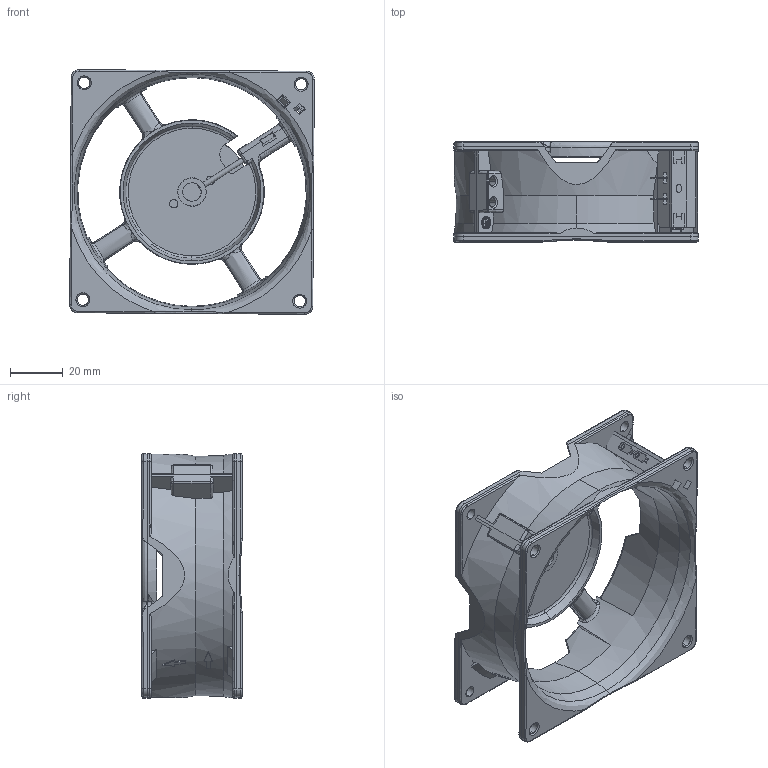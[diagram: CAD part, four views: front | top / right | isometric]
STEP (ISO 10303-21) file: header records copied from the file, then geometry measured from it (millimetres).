
FILE_DESCRIPTION(/* description */ (''),/* implementation_level */ '2;1');
FILE_NAME(/* name */ 'A09B23HTBMxx (x clienti)',/* time_stamp */ '2017-11-21T10:25:26+01:00',/* author */ (''),/* organization */ (''),/* preprocessor_version */ 'ST-DEVELOPER v10',/* originating_system */ '',/* authorisation */ '');
FILE_SCHEMA (('CONFIG_CONTROL_DESIGN'));
Length unit declared in the file: millimetre
Products named in the file (1): 1
Bounding box: 93.07 x 38.1 x 93.07 mm (x, y, z)
Volume: 2540.2 mm3; surface area: 42110.3 mm2
Topology: 7 solids, 8 shells, 908 faces, 2458 edges, 1529 vertices
Faces by surface type: bspline 502, plane 406
Entity records: 44798 total; most frequent: CARTESIAN_POINT 29986, ORIENTED_EDGE 4840, EDGE_CURVE 2448, B_SPLINE_CURVE_WITH_KNOTS 1768, VERTEX_POINT 1529, EDGE_LOOP 959, ADVANCED_FACE 908, FACE_OUTER_BOUND 908
